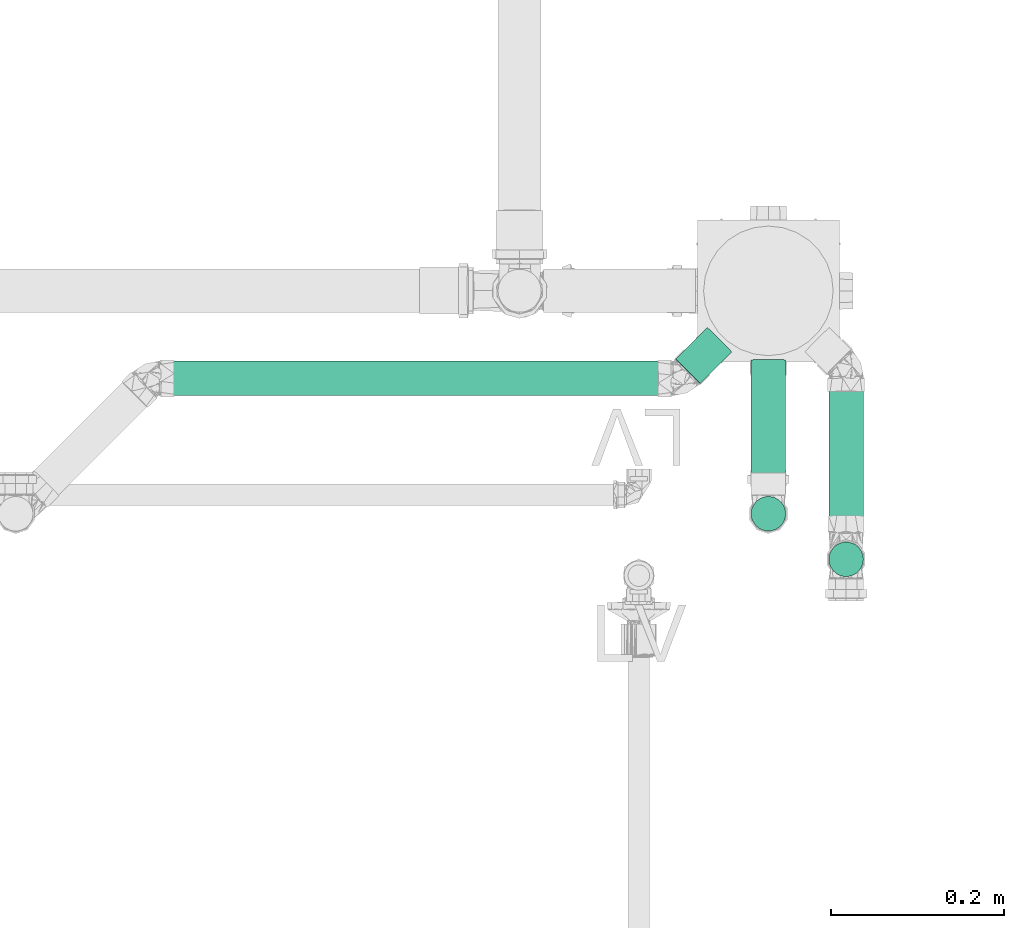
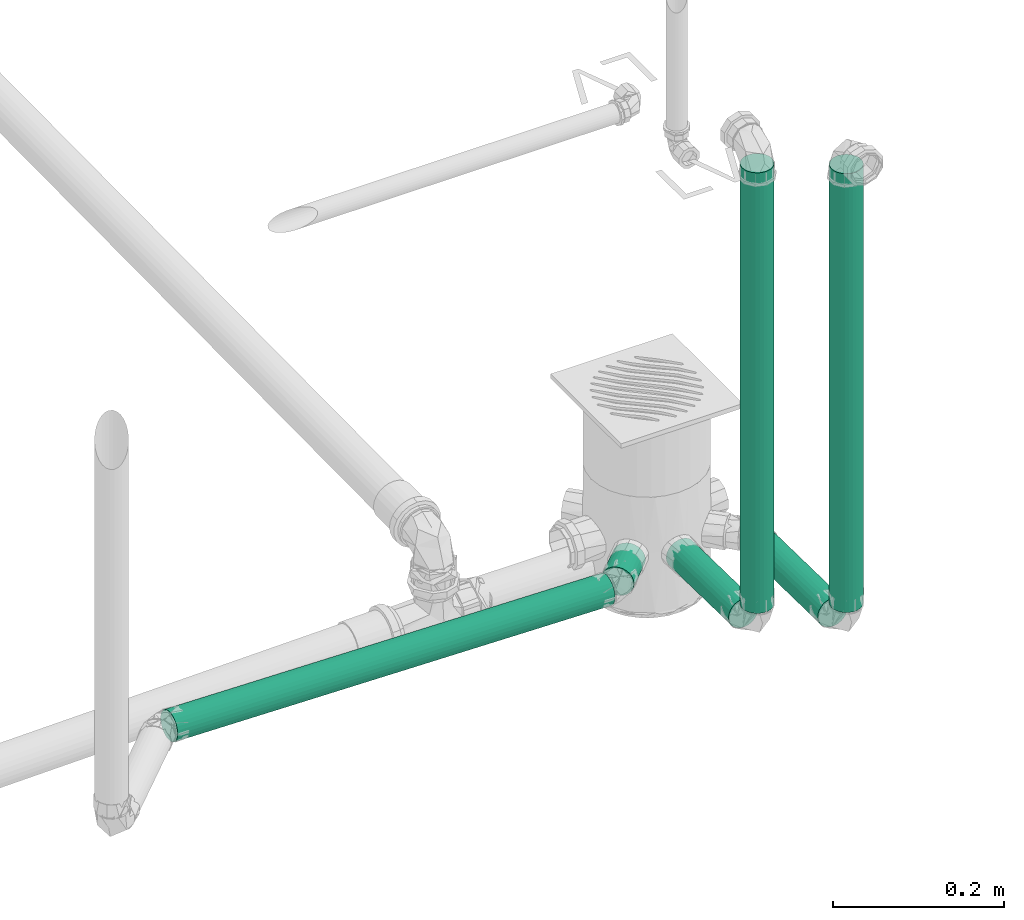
# One storey, part 256 of 589: 6 flow segments.
"""IFC2X3 building model written with IfcOpenShell, lengths in millimetres."""

from ifc_helpers import new_model, entity, si_unit, converted_unit, derived_unit, direction, frame, frame_2d, origin, place, context, subcontext, project, spatial, circle, extrude, type_object, element, save


model = new_model("IFC2X3")

# Units and contexts
model_context = context("Model", 3, precision=0.01, world=origin(), true_north=direction((6.123031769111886e-17, 1.0)))
body_context = subcontext(model_context, "Body", "Model", "MODEL_VIEW")
ifc_project = project(units=[si_unit("LENGTHUNIT", "METRE", prefix="MILLI"), si_unit("AREAUNIT", "SQUARE_METRE"), si_unit("VOLUMEUNIT", "CUBIC_METRE"), converted_unit("PLANEANGLEUNIT", "DEGREE", entity("IfcRatioMeasure", 0.017453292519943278), si_unit("PLANEANGLEUNIT", "RADIAN"), dimensions=[0, 0, 0, 0, 0, 0, 0]), si_unit("MASSUNIT", "GRAM", prefix="KILO"), derived_unit("MASSDENSITYUNIT", [(si_unit("MASSUNIT", "GRAM", prefix="KILO"), 1), (si_unit("LENGTHUNIT", "METRE"), -3)]), derived_unit("IONCONCENTRATIONUNIT", [(si_unit("MASSUNIT", "GRAM", prefix="KILO"), 1), (si_unit("LENGTHUNIT", "METRE"), -3)]), derived_unit("MOMENTOFINERTIAUNIT", [(si_unit("LENGTHUNIT", "METRE"), 4)]), si_unit("TIMEUNIT", "SECOND"), si_unit("FREQUENCYUNIT", "HERTZ"), si_unit("THERMODYNAMICTEMPERATUREUNIT", "DEGREE_CELSIUS"), derived_unit("THERMALTRANSMITTANCEUNIT", [(si_unit("MASSUNIT", "GRAM", prefix="KILO"), 1), (si_unit("THERMODYNAMICTEMPERATUREUNIT", "KELVIN"), -1), (si_unit("TIMEUNIT", "SECOND"), -3)]), derived_unit("THERMALCONDUCTANCEUNIT", [(si_unit("MASSUNIT", "GRAM", prefix="KILO"), 1), (si_unit("THERMODYNAMICTEMPERATUREUNIT", "KELVIN"), -1), (si_unit("TIMEUNIT", "SECOND"), -3), (si_unit("LENGTHUNIT", "METRE"), 1)]), derived_unit("VOLUMETRICFLOWRATEUNIT", [(si_unit("LENGTHUNIT", "METRE"), 3), (si_unit("TIMEUNIT", "SECOND"), -1)]), derived_unit("MASSFLOWRATEUNIT", [(si_unit("MASSUNIT", "GRAM", prefix="KILO"), 1), (si_unit("TIMEUNIT", "SECOND"), -1)]), derived_unit("ROTATIONALFREQUENCYUNIT", [(si_unit("TIMEUNIT", "SECOND"), -1)]), si_unit("ELECTRICCURRENTUNIT", "AMPERE"), si_unit("ELECTRICVOLTAGEUNIT", "VOLT"), si_unit("POWERUNIT", "WATT"), si_unit("FORCEUNIT", "NEWTON", prefix="KILO"), si_unit("ILLUMINANCEUNIT", "LUX"), si_unit("LUMINOUSFLUXUNIT", "LUMEN"), si_unit("LUMINOUSINTENSITYUNIT", "CANDELA"), derived_unit("USERDEFINED", [(si_unit("MASSUNIT", "GRAM", prefix="KILO"), -1), (si_unit("LENGTHUNIT", "METRE"), -2), (si_unit("TIMEUNIT", "SECOND"), 3), (si_unit("LUMINOUSFLUXUNIT", "LUMEN"), 1)]), derived_unit("USERDEFINED", [(si_unit("MASSUNIT", "GRAM", prefix="KILO"), 1), (si_unit("TIMEUNIT", "SECOND"), -3), (si_unit("LENGTHUNIT", "METRE"), 3), (si_unit("ELECTRICCURRENTUNIT", "AMPERE"), -2)]), derived_unit("SOUNDPOWERUNIT", [(si_unit("MASSUNIT", "GRAM", prefix="KILO"), 1), (si_unit("TIMEUNIT", "SECOND"), -3), (si_unit("LENGTHUNIT", "METRE"), 2)]), derived_unit("SOUNDPRESSUREUNIT", [(si_unit("MASSUNIT", "GRAM", prefix="KILO"), 1), (si_unit("LENGTHUNIT", "METRE"), -1), (si_unit("TIMEUNIT", "SECOND"), -2)]), derived_unit("LINEARVELOCITYUNIT", [(si_unit("LENGTHUNIT", "METRE"), 1), (si_unit("TIMEUNIT", "SECOND"), -1)]), si_unit("PRESSUREUNIT", "PASCAL"), derived_unit("USERDEFINED", [(si_unit("MASSUNIT", "GRAM", prefix="KILO"), 1), (si_unit("LENGTHUNIT", "METRE"), -2), (si_unit("TIMEUNIT", "SECOND"), -2)]), derived_unit("LINEARFORCEUNIT", [(si_unit("MASSUNIT", "GRAM", prefix="KILO"), 1), (si_unit("TIMEUNIT", "SECOND"), -2)]), derived_unit("PLANARFORCEUNIT", [(si_unit("MASSUNIT", "GRAM", prefix="KILO"), 1), (si_unit("LENGTHUNIT", "METRE"), -1), (si_unit("TIMEUNIT", "SECOND"), -2)]), derived_unit("SPECIFICHEATCAPACITYUNIT", [(si_unit("THERMODYNAMICTEMPERATUREUNIT", "KELVIN"), -1), (si_unit("LENGTHUNIT", "METRE"), 2), (si_unit("TIMEUNIT", "SECOND"), -2)]), derived_unit("HEATINGVALUEUNIT", [(si_unit("LENGTHUNIT", "METRE"), 2), (si_unit("TIMEUNIT", "SECOND"), -2)]), derived_unit("VAPORPERMEABILITYUNIT", [(si_unit("LENGTHUNIT", "METRE"), -1), (si_unit("TIMEUNIT", "SECOND"), 1)]), derived_unit("DYNAMICVISCOSITYUNIT", [(si_unit("MASSUNIT", "GRAM", prefix="KILO"), 1), (si_unit("TIMEUNIT", "SECOND"), -1), (si_unit("LENGTHUNIT", "METRE"), -1)]), derived_unit("THERMALEXPANSIONCOEFFICIENTUNIT", [(si_unit("THERMODYNAMICTEMPERATUREUNIT", "KELVIN"), -1)]), derived_unit("MODULUSOFELASTICITYUNIT", [(si_unit("MASSUNIT", "GRAM", prefix="KILO"), 1), (si_unit("LENGTHUNIT", "METRE"), -1), (si_unit("TIMEUNIT", "SECOND"), -2)]), derived_unit("ISOTHERMALMOISTURECAPACITYUNIT", [(si_unit("LENGTHUNIT", "METRE"), 3), (si_unit("MASSUNIT", "GRAM", prefix="KILO"), -1)]), derived_unit("MOISTUREDIFFUSIVITYUNIT", [(si_unit("TIMEUNIT", "SECOND"), -1), (si_unit("LENGTHUNIT", "METRE"), 2)])], contexts=[model_context])

# Site, building, storey
site_placement = place(None, origin())
site = spatial("IfcSite", under=ifc_project, at=site_placement, Name="Default", CompositionType="ELEMENT")
building_placement = place(site_placement, origin())
building = spatial("IfcBuilding", under=site, at=building_placement, CompositionType="ELEMENT")
storey_placement = place(building_placement, frame((0.0, 0.0, 100.0)))
storey = spatial("IfcBuildingStorey", under=building, at=storey_placement, Name="TÉRREO", CompositionType="ELEMENT", Elevation=100.0)

# Flow segments
pipe_segment_type = type_object("IfcPipeSegmentType", Name="Tipos de tubos:PVC Esgoto Série Normal", PredefinedType="NOTDEFINED")
flow_segment_1_placement = place(storey_placement, origin())
element("IfcFlowSegment", 1, at=flow_segment_1_placement, inside=storey, type_object=pipe_segment_type, Name="Tipos de tubos:PVC Esgoto Série Normal", ObjectType="Tipos de tubos:PVC Esgoto Série Normal", context=body_context, shape_type="SweptSolid", body=[
    extrude(circle(Radius=20.0, at=frame_2d((0.0, -2.3006325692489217e-14), x_axis=(1.0, 0.0))), frame((2609.484498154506, 3275.54298208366, -185.47956172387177), z_axis=(0.0, -0.9998000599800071, 0.01999600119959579), x_axis=(1.0, 0.0, 0.0)), (0.0, 0.0, 1.0), 145.91447945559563),
])
flow_segment_2_placement = place(storey_placement, origin())
element("IfcFlowSegment", 2, at=flow_segment_2_placement, inside=storey, type_object=pipe_segment_type, Name="Tipos de tubos:PVC Esgoto Série Normal", ObjectType="Tipos de tubos:PVC Esgoto Série Normal", context=body_context, shape_type="SweptSolid", body=[
    extrude(circle(Radius=20.0, at=frame_2d((3.575556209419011e-17, 2.3601512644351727e-14), x_axis=(1.0, 0.0))), frame((2516.258699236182, 3262.220613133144, -185.02627007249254), z_axis=(0.7071128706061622, 0.7070468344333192, -0.008727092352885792), x_axis=(-0.7070737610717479, 0.7071397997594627, 0.0)), (0.0, 0.0, 1.0), 51.94074189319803),
])
flow_segment_3_placement = place(storey_placement, origin())
element("IfcFlowSegment", 3, at=flow_segment_3_placement, inside=storey, type_object=pipe_segment_type, Name="Tipos de tubos:PVC Esgoto Série Normal", ObjectType="Tipos de tubos:PVC Esgoto Série Normal", context=body_context, shape_type="SweptSolid", body=[
    extrude(circle(Radius=20.0, at=frame_2d((0.0, -1.6916415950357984e-14), x_axis=(1.0, 0.0))), frame((1906.335308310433, 3254.0930226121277, -172.7604710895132), z_axis=(0.999800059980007, 0.0, -0.019996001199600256), x_axis=(0.0, 1.0, 0.0)), (0.0, 0.0, 1.0), 590.4197001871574),
])
flow_segment_4_placement = place(storey_placement, origin())
element("IfcFlowSegment", 4, at=flow_segment_4_placement, inside=storey, type_object=pipe_segment_type, Name="Tipos de tubos:PVC Esgoto Série Normal", ObjectType="Tipos de tubos:PVC Esgoto Série Normal", context=body_context, shape_type="SweptSolid", body=[
    extrude(circle(Radius=20.0, at=frame_2d((-5.4132530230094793e-17, -2.7546908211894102e-14), x_axis=(1.0, 0.0))), frame((2699.4777273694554, 3076.9159966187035, -180.82550099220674), z_axis=(9.996073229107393e-05, 0.999807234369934, -0.01963374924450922), x_axis=(0.9999999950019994, -9.998000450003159e-05, 0.0)), (0.0, 0.0, 1.0), 177.05366038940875),
])
flow_segment_5_placement = place(storey_placement, origin())
element("IfcFlowSegment", 5, at=flow_segment_5_placement, inside=storey, type_object=pipe_segment_type, Name="Tipos de tubos:PVC Esgoto Série Normal", ObjectType="Tipos de tubos:PVC Esgoto Série Normal", context=body_context, shape_type="SweptSolid", body=[
    extrude(circle(Radius=20.0, at=frame_2d((5.399401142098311e-19, -6.120543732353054e-19), x_axis=(1.0, 0.0))), frame((2699.47450696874, 3044.7055489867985, -147.97630931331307)), (0.0, 0.0, 1.0), 626.1763094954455),
])
flow_segment_6_placement = place(storey_placement, origin())
element("IfcFlowSegment", 6, at=flow_segment_6_placement, inside=storey, type_object=pipe_segment_type, Name="Tipos de tubos:PVC Esgoto Série Normal", ObjectType="Tipos de tubos:PVC Esgoto Série Normal", context=body_context, shape_type="SweptSolid", body=[
    extrude(circle(Radius=20.0, at=frame_2d((0.0, 6.299842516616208e-19), x_axis=(1.0, 0.0))), frame((2609.4844981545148, 3097.4581166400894, -149.7118650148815)), (0.0, 0.0, 1.0), 628.7118720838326),
])

save(model, "model.ifc")
